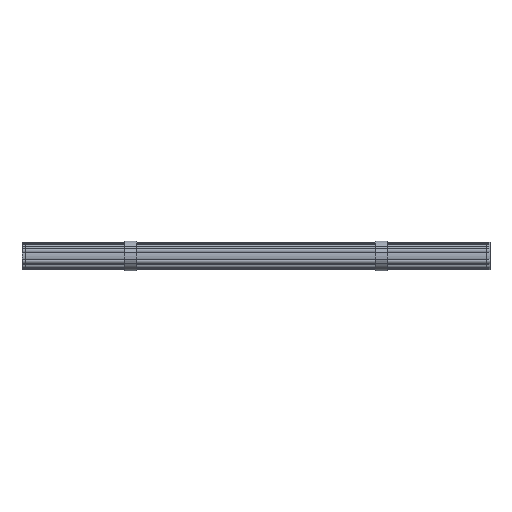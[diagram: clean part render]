
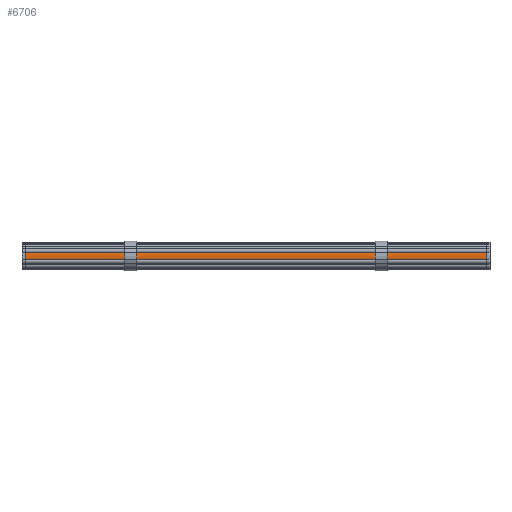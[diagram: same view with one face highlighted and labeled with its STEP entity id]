
A CAD part, front view. The second image highlights one B-rep face of the part: STEP entity #6706.
In plain terms, the highlighted cylindrical face has radius 31 mm (diameter 62 mm), a partial arc.
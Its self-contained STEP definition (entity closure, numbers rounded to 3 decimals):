
#56 = CIRCLE ( 'NONE', #343, 31. ) ;
#169 = DIRECTION ( 'NONE',  ( 1., 0., 0. ) ) ;
#201 = VERTEX_POINT ( 'NONE', #3903 ) ;
#343 = AXIS2_PLACEMENT_3D ( 'NONE', #2658, #5397, #7076 ) ;
#371 = ORIENTED_EDGE ( 'NONE', *, *, #3000, .T. ) ;
#493 = ORIENTED_EDGE ( 'NONE', *, *, #1406, .F. ) ;
#1169 = CIRCLE ( 'NONE', #2344, 31. ) ;
#1232 = LINE ( 'NONE', #6343, #5411 ) ;
#1406 = EDGE_CURVE ( 'NONE', #201, #4289, #1169, .T. ) ;
#1727 = CARTESIAN_POINT ( 'NONE',  ( -580., -29.762, -8.673 ) ) ;
#1729 = CARTESIAN_POINT ( 'NONE',  ( -580., -29.655, 9.032 ) ) ;
#1826 = VERTEX_POINT ( 'NONE', #1729 ) ;
#2342 = DIRECTION ( 'NONE',  ( 1., 0., 0. ) ) ;
#2344 = AXIS2_PLACEMENT_3D ( 'NONE', #2927, #169, #4576 ) ;
#2658 = CARTESIAN_POINT ( 'NONE',  ( -580., 0., 0. ) ) ;
#2927 = CARTESIAN_POINT ( 'NONE',  ( 580., 0., 0. ) ) ;
#2968 = DIRECTION ( 'NONE',  ( 1., 0., 0. ) ) ;
#2981 = EDGE_LOOP ( 'NONE', ( #3206, #5700, #371, #493 ) ) ;
#3000 = EDGE_CURVE ( 'NONE', #3893, #4289, #1232, .T. ) ;
#3203 = CARTESIAN_POINT ( 'NONE',  ( 580., -29.762, -8.673 ) ) ;
#3206 = ORIENTED_EDGE ( 'NONE', *, *, #5894, .F. ) ;
#3476 = DIRECTION ( 'NONE',  ( 0., 0., -1. ) ) ;
#3581 = AXIS2_PLACEMENT_3D ( 'NONE', #4528, #2342, #3476 ) ;
#3893 = VERTEX_POINT ( 'NONE', #1727 ) ;
#3903 = CARTESIAN_POINT ( 'NONE',  ( 580., -29.655, 9.032 ) ) ;
#4136 = LINE ( 'NONE', #6488, #6232 ) ;
#4289 = VERTEX_POINT ( 'NONE', #3203 ) ;
#4528 = CARTESIAN_POINT ( 'NONE',  ( -588.002, 0., 0. ) ) ;
#4576 = DIRECTION ( 'NONE',  ( 0., 0., -1. ) ) ;
#5200 = EDGE_CURVE ( 'NONE', #1826, #3893, #56, .T. ) ;
#5397 = DIRECTION ( 'NONE',  ( 1., 0., 0. ) ) ;
#5411 = VECTOR ( 'NONE', #2968, 1000. ) ;
#5437 = FACE_OUTER_BOUND ( 'NONE', #2981, .T. ) ;
#5700 = ORIENTED_EDGE ( 'NONE', *, *, #5200, .T. ) ;
#5894 = EDGE_CURVE ( 'NONE', #1826, #201, #4136, .T. ) ;
#5920 = DIRECTION ( 'NONE',  ( 1., 0., 0. ) ) ;
#6232 = VECTOR ( 'NONE', #5920, 1000. ) ;
#6343 = CARTESIAN_POINT ( 'NONE',  ( -588.002, -29.762, -8.673 ) ) ;
#6488 = CARTESIAN_POINT ( 'NONE',  ( -588.002, -29.655, 9.032 ) ) ;
#6706 = ADVANCED_FACE ( 'NONE', ( #5437 ), #6936, .T. ) ;
#6936 = CYLINDRICAL_SURFACE ( 'NONE', #3581, 31. ) ;
#7076 = DIRECTION ( 'NONE',  ( 0., 0., 1. ) ) ;
